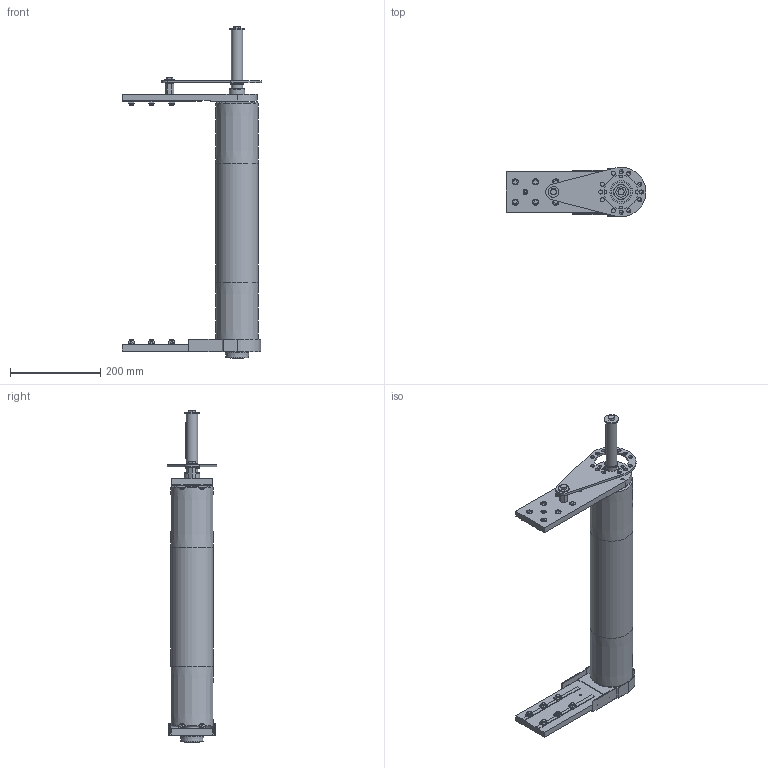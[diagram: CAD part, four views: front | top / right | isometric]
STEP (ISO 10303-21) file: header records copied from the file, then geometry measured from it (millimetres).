
FILE_DESCRIPTION (( 'STEP AP214' ), '1' );
FILE_NAME ('084.095.KD.63.508.STEP', '2014-11-04T14:27:05', ( '' ), ( '' ), 'SwSTEP 2.0', 'SolidWorks 2012', '' );
FILE_SCHEMA (( 'AUTOMOTIVE_DESIGN' ));
Length unit declared in the file: millimetre
Products named in the file (23): GRANI A PUNTA PIATTA UNI 5923_M8x25 UNI 5923; 084.302.000 DADI ALUSIC 13x13_084.302.004; 084.301.000 VITI ALUSIC_084.301.003; RONDELLE FASCIA LARGA UNI 6593_8.4x24 UNI 6593; VITI TE UNI 5739_M8x16 UNI 5739; RONDELLE FASCIA LARGA UNI 6593_8.4x32 UNI 6593; VITI TSEI UNI 5933_M4x12 UNI 5933; CHIAVETTE_A 8x7x80 UNI 6604-69; ANELLI ELASTICI PER ESTERNI UNI 7435-75_30 UNI 7435; ANELLI ELASTICI PER ESTERNI UNI 7435-75_25 UNI 7435; CHIAVETTE_A 8x7x25 UNI 6604-69; 084.802.019_084.802.019; 084.810.003; 084.808.002_084.808.002; 084.808.003_084.808.003; 084.812.003; 084.816.137_084.816.107<A macchina>; 084.802.034_084.802.034; 084.812.004; 084.802.027; 084.808.005-1; 084.803.005-1; 084.095.KD.63.508
Assembly tree (48 placements, depth 2):
  084.095.KD.63.508
    084.803.005-1
    084.808.005-1
    084.802.027
    084.812.004
    084.802.034_084.802.034
    084.816.137_084.816.107<A macchina>
    084.812.003
    084.808.003_084.808.003
    084.808.002_084.808.002
    084.810.003  x2
    084.802.019_084.802.019
    CHIAVETTE_A 8x7x25 UNI 6604-69
    ANELLI ELASTICI PER ESTERNI UNI 7435-75_25 UNI 7435
    ANELLI ELASTICI PER ESTERNI UNI 7435-75_30 UNI 7435  x2
    CHIAVETTE_A 8x7x80 UNI 6604-69
    VITI TSEI UNI 5933_M4x12 UNI 5933  x2
    RONDELLE FASCIA LARGA UNI 6593_8.4x32 UNI 6593
    VITI TE UNI 5739_M8x16 UNI 5739  x2
    RONDELLE FASCIA LARGA UNI 6593_8.4x24 UNI 6593
    084.301.000 VITI ALUSIC_084.301.003  x12
    084.302.000 DADI ALUSIC 13x13_084.302.004  x12
    GRANI A PUNTA PIATTA UNI 5923_M8x25 UNI 5923
Bounding box: 309.79 x 109.66 x 737.33 mm (x, y, z)
Volume: 2050143.8 mm3; surface area: 867845.2 mm2
Topology: 53 solids, 54 shells, 1108 faces, 2787 edges, 1846 vertices
Faces by surface type: plane 717, cylinder 224, cone 65, torus 50, bspline 48, sphere 4
Full cylindrical faces by diameter (mm): 3.3 x2, 4 x2, 4.2 x1, 5 x1, 6.8 x19, 8 x17, 8.4 x2, 9 x24, 12.5 x1, 13 x12, 13.5 x12, 20 x2, 23.9 x1, 24 x1, 25 x3, 28.6 x2, 30 x5, 32 x5, 32.5 x2, 34 x4, 39.5 x2, 41 x2, 44 x6, 75.2 x1, 95 x1
Entity records: 24201 total; most frequent: CARTESIAN_POINT 5026, DIRECTION 3608, ORIENTED_EDGE 3562, EDGE_CURVE 1781, VERTEX_POINT 1249, AXIS2_PLACEMENT_3D 1229, VECTOR 1150, LINE 1150
